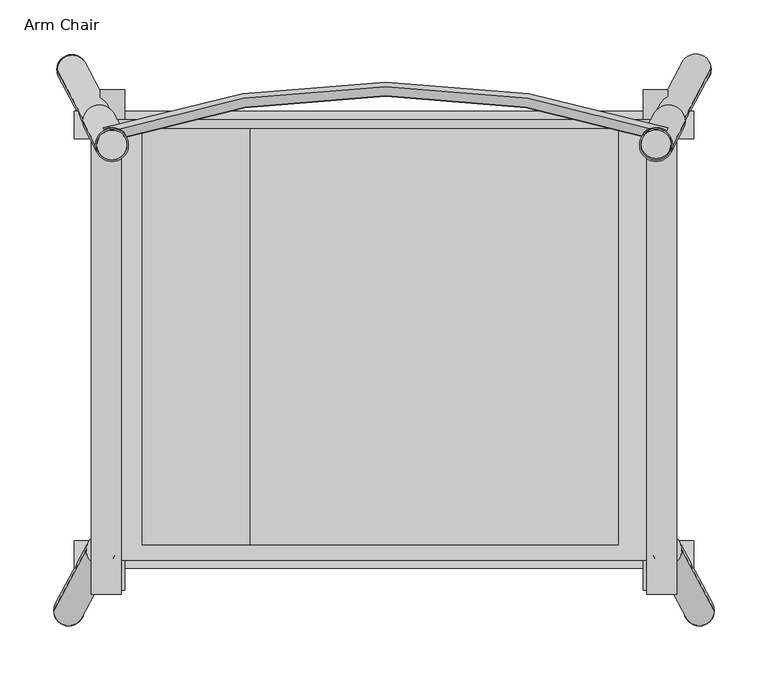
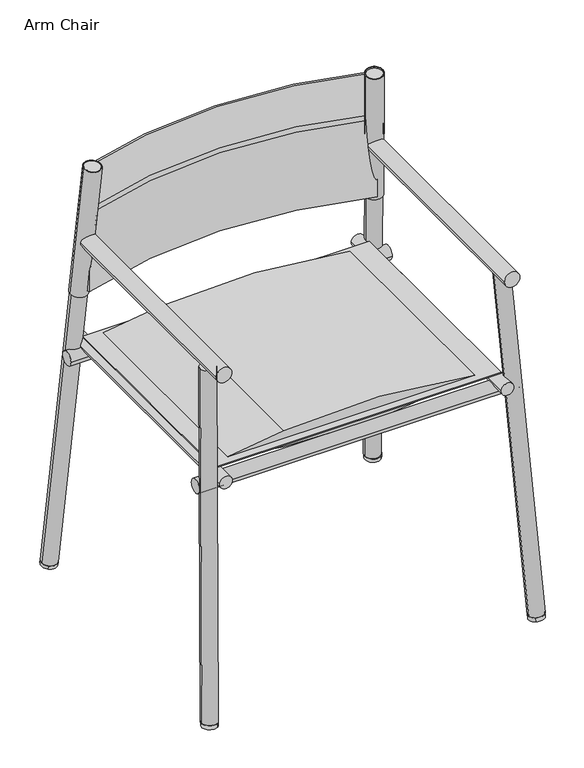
"""IFC4 building model written with IfcOpenShell, lengths in millimetres: furniture geometry, EMU_Seating_Outdoor_Terramare_ArmChair : Arm Chair."""

from ifc_helpers import new_model, si_unit, point, frame, frame_2d, origin, place, context, project, spatial, polyline, circle_curve, ellipse_curve, trimmed, segment, composite_curve, outline, extrude, source, transform, mapped, element, save
from ifc_brep_helpers import plane_surface, cylinder_surface, revolved_surface, advanced_brep


def arm_chair_66f9f921(model_context):
    return source(origin(), model_context, "Body", "SolidModel", [
        extrude(outline(composite_curve([segment(trimmed(circle_curve(frame_2d((-2.7948229, 0.0)), 13.97), [point((-15.1435229, -6.5322666))], [point((9.5538772, 6.5322665))], False, "CARTESIAN"), True, "CONTINUOUS"), segment(trimmed(circle_curve(frame_2d((-2.7948229, 0.0)), 13.97), [point((9.5538772, 6.5322665))], [point((-15.1435229, -6.5322666))], False, "CARTESIAN"), True, "CONTINUOUS")], self_intersect=False)), frame((290.8029938, -337.3671142, 0.0), z_axis=(-0.047471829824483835, 0.08928152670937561, 0.9948744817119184), x_axis=(-0.8829475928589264, -0.4694715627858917, 0.0)), (0.0, 0.0, 1.0), 7.0085573),
        extrude(outline(composite_curve([segment(trimmed(circle_curve(frame_2d((-2.7948229, 0.0)), 13.97), [point((-15.1435229, 6.5322666))], [point((9.5538772, -6.5322665))], False, "CARTESIAN"), True, "CONTINUOUS"), segment(trimmed(circle_curve(frame_2d((-2.7948229, 0.0)), 13.97), [point((9.5538772, -6.5322665))], [point((-15.1435229, 6.5322666))], False, "CARTESIAN"), True, "CONTINUOUS")], self_intersect=False)), frame((-290.8029938, -337.3671142, 0.0), z_axis=(0.047471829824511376, 0.08928152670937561, 0.9948744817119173), x_axis=(0.8829475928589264, -0.46947156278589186, 0.0)), (0.0, 0.0, 1.0), 7.0085573),
        extrude(outline(composite_curve([segment(trimmed(circle_curve(frame_2d((-2.9811444, 0.0)), 13.97), [point((-15.3298445, 6.5322666))], [point((9.3675556, -6.5322665))], False, "CARTESIAN"), True, "CONTINUOUS"), segment(trimmed(circle_curve(frame_2d((-2.9811444, 0.0)), 13.97), [point((9.3675556, -6.5322665))], [point((-15.3298445, 6.5322666))], False, "CARTESIAN"), True, "CONTINUOUS")], self_intersect=False)), frame((287.8322771, 169.1310229, 0.0), z_axis=(-0.0490731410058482, -0.0922931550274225, 0.9945218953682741), x_axis=(-0.8829475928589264, 0.4694715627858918, 0.0)), (0.0, 0.0, 1.0), 6.3176111),
        extrude(outline(composite_curve([segment(trimmed(circle_curve(frame_2d((-2.9811444, 0.0)), 13.97), [point((-15.3298445, -6.5322666))], [point((9.3675556, 6.5322665))], False, "CARTESIAN"), True, "CONTINUOUS"), segment(trimmed(circle_curve(frame_2d((-2.9811444, 0.0)), 13.97), [point((9.3675556, 6.5322665))], [point((-15.3298445, -6.5322666))], False, "CARTESIAN"), True, "CONTINUOUS")], self_intersect=False)), frame((-287.8322771, 169.1310229, 0.0), z_axis=(0.04907314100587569, -0.09229315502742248, 0.9945218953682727), x_axis=(0.8829475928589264, 0.4694715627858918, 0.0)), (0.0, 0.0, 1.0), 6.3176111),
        extrude(outline(composite_curve([segment(trimmed(circle_curve(frame_2d((-2.9811443, 0.0)), 15.3692328), [point((-16.5666882, -7.1865372))], [point((10.6043994, 7.1865373))], False, "CARTESIAN"), True, "CONTINUOUS"), segment(trimmed(circle_curve(frame_2d((-2.9811443, 0.0)), 15.3692328), [point((10.6043994, 7.1865373))], [point((-16.5666882, -7.1865372))], False, "CARTESIAN"), True, "CONTINUOUS")], self_intersect=False), holes=[composite_curve([segment(trimmed(circle_curve(frame_2d((-2.9811443, 0.0)), 13.97), [point((-15.3298445, -6.5322666))], [point((9.3675557, 6.5322666))], True, "CARTESIAN"), True, "CONTINUOUS"), segment(trimmed(circle_curve(frame_2d((-2.9811443, 0.0)), 13.97), [point((9.3675557, 6.5322666))], [point((-15.3298445, -6.5322666))], True, "CARTESIAN"), True, "CONTINUOUS")], self_intersect=False)]), frame((262.2007781, 120.9251843, 536.9490511), z_axis=(-0.04747182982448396, -0.08928152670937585, 0.9948744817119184), x_axis=(-0.8829475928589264, 0.4694715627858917, 0.0)), (0.0, 0.0, 1.0), 247.65),
        extrude(outline(composite_curve([segment(trimmed(circle_curve(frame_2d((-2.9811443, 0.0)), 15.3692328), [point((-16.5666882, 7.1865372))], [point((10.6043994, -7.1865373))], False, "CARTESIAN"), True, "CONTINUOUS"), segment(trimmed(circle_curve(frame_2d((-2.9811443, 0.0)), 15.3692328), [point((10.6043994, -7.1865373))], [point((-16.5666882, 7.1865372))], False, "CARTESIAN"), True, "CONTINUOUS")], self_intersect=False), holes=[composite_curve([segment(trimmed(circle_curve(frame_2d((-2.9811443, 0.0)), 13.97), [point((-15.3298445, 6.5322666))], [point((9.3675557, -6.5322666))], True, "CARTESIAN"), True, "CONTINUOUS"), segment(trimmed(circle_curve(frame_2d((-2.9811443, 0.0)), 13.97), [point((9.3675557, -6.5322666))], [point((-15.3298445, 6.5322666))], True, "CARTESIAN"), True, "CONTINUOUS")], self_intersect=False)]), frame((-262.2007781, 120.9251843, 536.9490511), z_axis=(0.04747182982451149, -0.08928152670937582, 0.9948744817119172), x_axis=(0.8829475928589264, 0.4694715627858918, 0.0)), (0.0, 0.0, 1.0), 247.65),
        advanced_brep(
        [(-261.104476, 113.1986092, 773.8752102), (-258.2579984, 104.6869038, 696.8030251), (-258.2579984, 104.6869038, 544.4030251), (-256.8589164, 100.5032864, 544.4030251), (-256.8589164, 100.5032864, 692.0826559), (-257.0346461, 101.0287637, 701.6310586), (-259.7028068, 109.0072552, 773.8752102), (263.9727264, 113.1986092, 773.8752102), (262.5710572, 109.0072552, 773.8752102), (259.9028965, 101.0287637, 701.6310586), (259.7271668, 100.5032864, 692.0826559), (259.7271668, 100.5032864, 544.4030251), (261.1262488, 104.6869038, 544.4030251), (261.1262488, 104.6869038, 696.8030251)],
        [
            (0, 1),
            (1, 2),
            (2, 3),
            (3, 4),
            (4, 5, circle_curve(frame((-283.0400148, 178.7915523, 692.0826559), z_axis=(-0.9483739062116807, -0.31715443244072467, 0.0), x_axis=(0.31715443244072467, -0.9483739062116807, 0.0)), 82.55)),
            (5, 6),
            (6, 0),
            (7, 8),
            (8, 9),
            (9, 10, circle_curve(frame((285.9082652, 178.7915523, 692.0826559), z_axis=(0.9483739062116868, -0.3171544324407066, 0.0), x_axis=(-0.3171544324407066, -0.9483739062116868, 0.0)), 82.55)),
            (10, 11),
            (11, 12),
            (12, 13),
            (13, 7),
            (13, 1, circle_curve(frame((1.4341252, -671.8598143, 696.8030251), z_axis=(0.0, 0.0, 1.0), x_axis=(-0.31715443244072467, 0.9483739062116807, 0.0)), 818.8191525)),
            (0, 7, circle_curve(frame((1.4341252, -671.8598143, 773.8752102), z_axis=(0.0, 0.0, -1.0), x_axis=(-0.31715443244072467, 0.9483739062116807, 0.0)), 827.7942048)),
            (12, 2, circle_curve(frame((1.4341252, -671.8598143, 544.4030251), z_axis=(0.0, 0.0, 1.0), x_axis=(-0.31715443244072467, 0.9483739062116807, 0.0)), 818.8191525)),
            (11, 3, circle_curve(frame((1.4341252, -671.8598143, 544.4030251), z_axis=(0.0, 0.0, 1.0), x_axis=(-0.31715443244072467, 0.9483739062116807, 0.0)), 814.4077939)),
            (10, 4, circle_curve(frame((1.4341252, -671.8598143, 692.0826559), z_axis=(0.0, 0.0, 1.0), x_axis=(-0.31715443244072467, 0.9483739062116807, 0.0)), 814.4077939)),
            (8, 6, circle_curve(frame((1.4341252, -671.8598143, 773.8752102), z_axis=(0.0, 0.0, 1.0), x_axis=(-0.31715443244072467, 0.9483739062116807, 0.0)), 823.3746884)),
            (5, 9, circle_curve(frame((1.4341252, -671.8598143, 701.6310586), z_axis=(0.0, 0.0, -1.0), x_axis=(-0.31715443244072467, 0.9483739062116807, 0.0)), 814.9618762)),
        ],
        [
            plane_surface(frame((-255.7408748, 97.1600523, 0.0), z_axis=(-0.9483739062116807, -0.31715443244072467, 0.0), x_axis=(0.0, 0.0, 1.0))),
            plane_surface(frame((258.6091252, 97.1600523, 0.0), z_axis=(0.9483739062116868, -0.3171544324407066, 0.0), x_axis=(0.0, 0.0, 1.0))),
            revolved_surface(polyline([(-261.104476, 113.1986092, 773.8752102), (-258.2579984, 104.6869038, 696.8030251)]), (1.4341252, -671.8598143, 0.0), (0.0, 0.0, -1.0)),
            cylinder_surface(frame((1.4341252, -671.8598143, 0.0), z_axis=(0.0, 0.0, -1.0), x_axis=(-0.31715443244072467, 0.9483739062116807, 0.0)), 818.8191525),
            plane_surface(frame((1.4341252, -671.8598143, 544.4030251), z_axis=(0.0, 0.0, -1.0), x_axis=(-0.31715443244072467, 0.9483739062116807, 0.0))),
            revolved_surface(polyline([(-256.85891644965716, 100.50328645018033, 544.4030251), (-256.85891644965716, 100.50328645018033, 692.0826559)]), (1.4341252, -671.8598143, 0.0), (0.0, 0.0, -1.0)),
            revolved_surface(polyline([(-257.0346461, 101.0287637, 701.6310586), (-259.7028068, 109.0072552, 773.8752102)]), (1.4341252, -671.8598143, 0.0), (0.0, 0.0, -1.0)),
            plane_surface(frame((1.4341252, -671.8598143, 773.8752102), z_axis=(0.0, 0.0, 1.0), x_axis=(-0.31715443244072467, 0.9483739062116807, 0.0))),
            revolved_surface(trimmed(ellipse_curve(frame((-283.0400148, 178.7915523, 692.0826559), z_axis=(-0.9483739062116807, -0.31715443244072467, 0.0), x_axis=(0.31715443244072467, -0.9483739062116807, 0.0)), 82.55, 82.55), [point((-256.8589164, 100.5032864, 692.0826559))], [point((-257.0346461, 101.0287637, 701.6310586))], True, "CARTESIAN"), (1.4341252, -671.8598143, 0.0), (0.0, 0.0, -1.0)),
        ],
        [
            (0, [[1, 2, 3, 4, 5, 6, 7]]),
            (1, [[8, 9, 10, 11, 12, 13, 14]]),
            (2, [[15, -1, 16, -14]]),
            (3, [[17, -2, -15, -13]]),
            (4, [[18, -3, -17, -12]]),
            (5, [[19, -4, -18, -11]]),
            (6, [[20, -6, 21, -9]]),
            (7, [[-16, -7, -20, -8]]),
            (8, [[-21, -5, -19, -10]]),
        ],
    ),
        extrude(outline(composite_curve([segment(trimmed(circle_curve(frame_2d((1640.4937439, -2.9236761)), 1214.245019), [point((432.3423532, -124.4192857))], [point((446.4823402, 217.8199171))], False, "CARTESIAN"), True, "CONTINUOUS"), segment(polyline([(446.4823402, 217.8199171), (446.4823402, -225.0305215)]), True, "CONTINUOUS"), segment(trimmed(circle_curve(frame_2d((1715.5419015, 4.6234092)), 1289.6717016), [point((446.4823402, -225.0305215))], [point((432.3423532, -124.4192857))], False, "CARTESIAN"), True, "CONTINUOUS")], self_intersect=False)), frame((0.0, -274.6013705, 0.0), z_axis=(0.0, 1.0, 0.0), x_axis=(0.0, 0.0, 1.0)), (0.0, 0.0, 1.0), 387.35),
        extrude(outline(composite_curve([segment(trimmed(circle_curve(frame_2d((-820.9297562, 4.6234092)), 1289.6717016), [point((462.2697921, -124.4192857))], [point((448.1298051, -225.0305215))], False, "CARTESIAN"), True, "CONTINUOUS"), segment(polyline([(448.1298051, -225.0305215), (448.1298051, 217.8199171)]), True, "CONTINUOUS"), segment(trimmed(circle_curve(frame_2d((-745.8815986, -2.9236761)), 1214.245019), [point((448.1298051, 217.8199171))], [point((462.2697921, -124.4192857))], False, "CARTESIAN"), True, "CONTINUOUS")], self_intersect=False)), frame((0.0, -274.6013705, 0.0), z_axis=(0.0, 1.0, 0.0), x_axis=(0.0, 0.0, 1.0)), (0.0, 0.0, 1.0), 387.35),
        extrude(outline(polyline([(257.093378, -288.8510583), (-257.0287289, -288.8510583), (-257.0287289, 121.1494971), (257.093378, 121.1494971), (257.093378, -288.8510583)])), frame((0.0, 0.0, 446.4823402), z_axis=(0.0, 0.0, 1.0), x_axis=(1.0, 0.0, 0.0)), (0.0, 0.0, 1.0), 1.6474648),
        extrude(outline(composite_curve([segment(trimmed(circle_curve(frame_2d((-2.9811444, 0.0)), 13.97), [point((-15.3298445, -6.5322666))], [point((9.3675556, 6.5322666))], False, "CARTESIAN"), True, "CONTINUOUS"), segment(trimmed(circle_curve(frame_2d((-2.9811444, 0.0)), 13.97), [point((9.3675556, 6.5322666))], [point((-15.3298445, -6.5322666))], False, "CARTESIAN"), True, "CONTINUOUS")], self_intersect=False)), frame((287.5222521, 169.7566237, 6.1486026), z_axis=(-0.04747182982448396, -0.08928152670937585, 0.9948744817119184), x_axis=(-0.8829475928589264, 0.4694715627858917, 0.0)), (0.0, 0.0, 1.0), 779.2100217),
        extrude(outline(composite_curve([segment(trimmed(circle_curve(frame_2d((-2.9811444, 0.0)), 13.97), [point((-15.3298445, 6.5322666))], [point((9.3675557, -6.5322665))], False, "CARTESIAN"), True, "CONTINUOUS"), segment(trimmed(circle_curve(frame_2d((-2.9811444, 0.0)), 13.97), [point((9.3675557, -6.5322665))], [point((-15.3298445, 6.5322666))], False, "CARTESIAN"), True, "CONTINUOUS")], self_intersect=False)), frame((-287.5222521, 168.5479506, 6.2830026), z_axis=(0.04747182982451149, -0.08928152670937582, 0.9948744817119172), x_axis=(0.8829475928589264, 0.4694715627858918, 0.0)), (0.0, 0.0, 1.0), 781.05),
        extrude(outline(composite_curve([segment(trimmed(circle_curve(frame_2d((-2.9811444, 0.0)), 13.97), [point((-15.3298445, 6.5322666))], [point((9.3675557, -6.5322665))], False, "CARTESIAN"), True, "CONTINUOUS"), segment(trimmed(circle_curve(frame_2d((-2.9811444, 0.0)), 13.97), [point((9.3675557, -6.5322665))], [point((-15.3298445, 6.5322666))], False, "CARTESIAN"), True, "CONTINUOUS")], self_intersect=False)), frame((290.6384816, -337.0577118, 6.2158026), z_axis=(-0.04747182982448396, 0.08928152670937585, 0.9948744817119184), x_axis=(-0.8829475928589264, -0.4694715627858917, 0.0)), (0.0, 0.0, 1.0), 632.3879672),
        extrude(outline(composite_curve([segment(trimmed(circle_curve(frame_2d((-2.9811444, 0.0)), 13.97), [point((-15.3298445, -6.5322666))], [point((9.3675557, 6.5322665))], False, "CARTESIAN"), True, "CONTINUOUS"), segment(trimmed(circle_curve(frame_2d((-2.9811444, 0.0)), 13.97), [point((9.3675557, 6.5322665))], [point((-15.3298445, -6.5322666))], False, "CARTESIAN"), True, "CONTINUOUS")], self_intersect=False)), frame((-290.6384816, -337.0577118, 6.2158026), z_axis=(0.04747182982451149, 0.08928152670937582, 0.9948744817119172), x_axis=(0.8829475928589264, -0.4694715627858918, 0.0)), (0.0, 0.0, 1.0), 632.3879672),
        extrude(outline(composite_curve([segment(trimmed(circle_curve(frame_2d((642.9730356, -258.4937558)), 13.97), [point((642.9730356, -272.4637558))], [point((642.9730356, -244.5237558))], False, "CARTESIAN"), True, "CONTINUOUS"), segment(trimmed(circle_curve(frame_2d((642.9730356, -258.4937558)), 13.97), [point((642.9730356, -244.5237558))], [point((642.9730356, -272.4637558))], False, "CARTESIAN"), True, "CONTINUOUS")], self_intersect=False)), frame((0.0, -320.7281823, 0.0), z_axis=(0.0, 1.0, 0.0), x_axis=(0.0, 0.0, 1.0)), (0.0, 0.0, 1.0), 423.3043945),
        extrude(outline(composite_curve([segment(trimmed(circle_curve(frame_2d((642.9731083, 258.5863102)), 13.97), [point((642.9731083, 244.6163102))], [point((642.9731083, 272.5563102))], False, "CARTESIAN"), True, "CONTINUOUS"), segment(trimmed(circle_curve(frame_2d((642.9731083, 258.5863102)), 13.97), [point((642.9731083, 272.5563102))], [point((642.9731083, 244.6163102))], False, "CARTESIAN"), True, "CONTINUOUS")], self_intersect=False)), frame((0.0, -320.7281823, 0.0), z_axis=(0.0, 1.0, 0.0), x_axis=(0.0, 0.0, 1.0)), (0.0, 0.0, 1.0), 423.3043945),
        extrude(outline(composite_curve([segment(trimmed(circle_curve(frame_2d((115.9265601, 420.0048503)), 12.7), [point((128.6265601, 420.0048503))], [point((103.2265601, 420.0048503))], False, "CARTESIAN"), True, "CONTINUOUS"), segment(trimmed(circle_curve(frame_2d((115.9265601, 420.0048503)), 12.7), [point((103.2265601, 420.0048503))], [point((128.6265601, 420.0048503))], False, "CARTESIAN"), True, "CONTINUOUS")], self_intersect=False)), frame((-287.9710263, 0.0, 0.0), z_axis=(1.0, 0.0, 0.0), x_axis=(0.0, 1.0, 0.0)), (0.0, 0.0, 1.0), 576.0020508),
        extrude(outline(composite_curve([segment(trimmed(circle_curve(frame_2d((-283.6025414, 420.0048503)), 12.7), [point((-270.9025414, 420.0048503))], [point((-296.3025414, 420.0048503))], False, "CARTESIAN"), True, "CONTINUOUS"), segment(trimmed(circle_curve(frame_2d((-283.6025414, 420.0048503)), 12.7), [point((-296.3025414, 420.0048503))], [point((-270.9025414, 420.0048503))], False, "CARTESIAN"), True, "CONTINUOUS")], self_intersect=False)), frame((-287.9710263, 0.0, 0.0), z_axis=(1.0, 0.0, 0.0), x_axis=(0.0, 1.0, 0.0)), (0.0, 0.0, 1.0), 576.0020508),
        extrude(outline(composite_curve([segment(trimmed(circle_curve(frame_2d((434.8369391, -252.4708676)), 11.4610426), [point((434.8369391, -263.9319102))], [point((434.8369391, -241.009825))], False, "CARTESIAN"), True, "CONTINUOUS"), segment(trimmed(circle_curve(frame_2d((434.8369391, -252.4708676)), 11.4610426), [point((434.8369391, -241.009825))], [point((434.8369391, -263.9319102))], False, "CARTESIAN"), True, "CONTINUOUS")], self_intersect=False)), frame((0.0, -316.8888818, 0.0), z_axis=(0.0, 1.0, 0.0), x_axis=(0.0, 0.0, 1.0)), (0.0, 0.0, 1.0), 465.7485128),
        extrude(outline(composite_curve([segment(trimmed(circle_curve(frame_2d((434.8370118, 252.5308658)), 11.43), [point((434.8370118, 241.1008658))], [point((434.8370118, 263.9608658))], False, "CARTESIAN"), True, "CONTINUOUS"), segment(trimmed(circle_curve(frame_2d((434.8370118, 252.5308658)), 11.43), [point((434.8370118, 263.9608658))], [point((434.8370118, 241.1008658))], False, "CARTESIAN"), True, "CONTINUOUS")], self_intersect=False)), frame((0.0, -316.8888818, 0.0), z_axis=(0.0, 1.0, 0.0), x_axis=(0.0, 0.0, 1.0)), (0.0, 0.0, 1.0), 465.7485128),
    ])


if __name__ == "__main__":
    model = new_model("IFC4")
    model_context = context("Model", 3, world=origin())
    ifc_project = project(units=[si_unit("LENGTHUNIT", "METRE", prefix="MILLI")], contexts=[model_context])
    site = spatial("IfcSite", under=ifc_project)
    building = spatial("IfcBuilding", under=site)
    placement = place(None, origin())
    arm_chair_shape = arm_chair_66f9f921(model_context)
    element("IfcFurniture", 1, ObjectType="EMU_Seating_Outdoor_Terramare_ArmChair : Arm Chair", at=placement, inside=building, context=model_context, shape_type="MappedRepresentation", body=[
        mapped(arm_chair_shape, transform((0.0, 0.0, 0.0), x_axis=(1.0, 0.0, 0.0), y_axis=(0.0, 1.0, 0.0), z_axis=(0.0, 0.0, 1.0))),
    ])
    save(model, "model.ifc")
